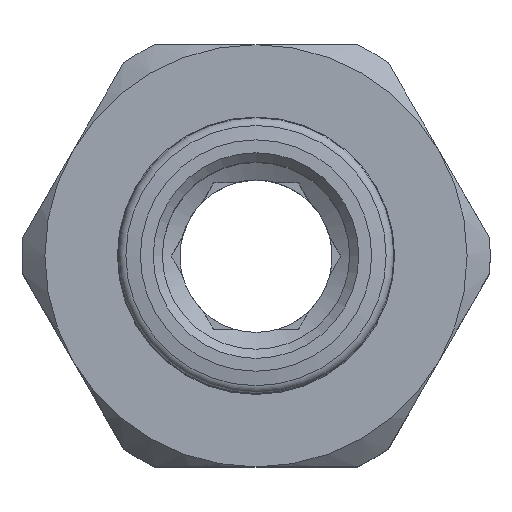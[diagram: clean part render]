
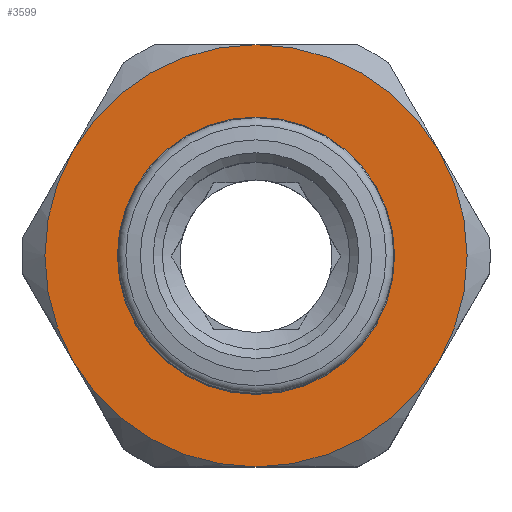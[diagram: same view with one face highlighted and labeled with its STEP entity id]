
A CAD part, top view. The second image highlights one B-rep face of the part: STEP entity #3599.
In plain terms, the highlighted planar face has unit normal (0, 0, 1) as drawn and (0, 1, 0) by its records, which use the part's own axes.
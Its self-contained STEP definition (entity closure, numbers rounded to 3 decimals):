
#1062=PLANE('',#3459);
#1176=ORIENTED_EDGE('',*,*,#1623,.T.);
#1177=ORIENTED_EDGE('',*,*,#1624,.T.);
#1178=ORIENTED_EDGE('',*,*,#1625,.F.);
#1179=ORIENTED_EDGE('',*,*,#1626,.F.);
#1180=ORIENTED_EDGE('',*,*,#1627,.T.);
#1181=ORIENTED_EDGE('',*,*,#1628,.T.);
#1182=ORIENTED_EDGE('',*,*,#1622,.F.);
#1419=CIRCLE('',#3458,7.55);
#1420=CIRCLE('',#3460,11.5);
#1421=CIRCLE('',#3461,11.5);
#1422=CIRCLE('',#3462,11.5);
#1423=CIRCLE('',#3463,11.5);
#1424=CIRCLE('',#3464,11.5);
#1425=CIRCLE('',#3465,11.5);
#1508=VERTEX_POINT('',#3181);
#1509=VERTEX_POINT('',#3184);
#1510=VERTEX_POINT('',#3185);
#1511=VERTEX_POINT('',#3187);
#1512=VERTEX_POINT('',#3189);
#1513=VERTEX_POINT('',#3191);
#1514=VERTEX_POINT('',#3193);
#1622=EDGE_CURVE('',#1508,#1508,#1419,.T.);
#1623=EDGE_CURVE('',#1509,#1510,#1420,.T.);
#1624=EDGE_CURVE('',#1510,#1511,#1421,.T.);
#1625=EDGE_CURVE('',#1512,#1511,#1422,.T.);
#1626=EDGE_CURVE('',#1513,#1512,#1423,.T.);
#1627=EDGE_CURVE('',#1513,#1514,#1424,.T.);
#1628=EDGE_CURVE('',#1514,#1509,#1425,.T.);
#1748=EDGE_LOOP('',(#1176,#1177,#1178,#1179,#1180,#1181));
#1749=EDGE_LOOP('',(#1182));
#1862=FACE_BOUND('',#1748,.T.);
#1863=FACE_BOUND('',#1749,.T.);
#2783=DIRECTION('',(0.,1.,0.));
#2784=DIRECTION('',(7.55,0.,0.));
#2785=DIRECTION('',(0.,1.,0.));
#2786=DIRECTION('',(1.,0.,0.));
#2787=DIRECTION('',(0.,1.,0.));
#2788=DIRECTION('',(9.959,0.,5.75));
#2789=DIRECTION('',(0.,1.,0.));
#2790=DIRECTION('',(9.959,0.,-5.75));
#2791=DIRECTION('',(0.,-1.,0.));
#2792=DIRECTION('',(-9.959,0.,-5.75));
#2793=DIRECTION('',(0.,-1.,0.));
#2794=DIRECTION('',(-9.959,0.,5.75));
#2795=DIRECTION('',(0.,1.,0.));
#2796=DIRECTION('',(-9.959,0.,5.75));
#2797=DIRECTION('',(0.,1.,0.));
#2798=DIRECTION('',(0.,0.,11.5));
#3181=CARTESIAN_POINT('',(28.325,31.315,0.));
#3182=CARTESIAN_POINT('',(20.775,31.315,0.));
#3183=CARTESIAN_POINT('',(30.735,31.315,-5.75));
#3184=CARTESIAN_POINT('',(30.735,31.315,5.75));
#3185=CARTESIAN_POINT('',(30.735,31.315,-5.75));
#3186=CARTESIAN_POINT('',(20.775,31.315,0.));
#3187=CARTESIAN_POINT('',(20.775,31.315,-11.5));
#3188=CARTESIAN_POINT('',(20.775,31.315,0.));
#3189=CARTESIAN_POINT('',(10.816,31.315,-5.75));
#3190=CARTESIAN_POINT('',(20.775,31.315,0.));
#3191=CARTESIAN_POINT('',(10.816,31.315,5.75));
#3192=CARTESIAN_POINT('',(20.775,31.315,0.));
#3193=CARTESIAN_POINT('',(20.775,31.315,11.5));
#3194=CARTESIAN_POINT('',(20.775,31.315,0.));
#3195=CARTESIAN_POINT('',(20.775,31.315,0.));
#3458=AXIS2_PLACEMENT_3D('',#3182,#2783,#2784);
#3459=AXIS2_PLACEMENT_3D('',#3183,#2785,#2786);
#3460=AXIS2_PLACEMENT_3D('',#3186,#2787,#2788);
#3461=AXIS2_PLACEMENT_3D('',#3188,#2789,#2790);
#3462=AXIS2_PLACEMENT_3D('',#3190,#2791,#2792);
#3463=AXIS2_PLACEMENT_3D('',#3192,#2793,#2794);
#3464=AXIS2_PLACEMENT_3D('',#3194,#2795,#2796);
#3465=AXIS2_PLACEMENT_3D('',#3195,#2797,#2798);
#3599=ADVANCED_FACE('',(#1862,#1863),#1062,.T.);
